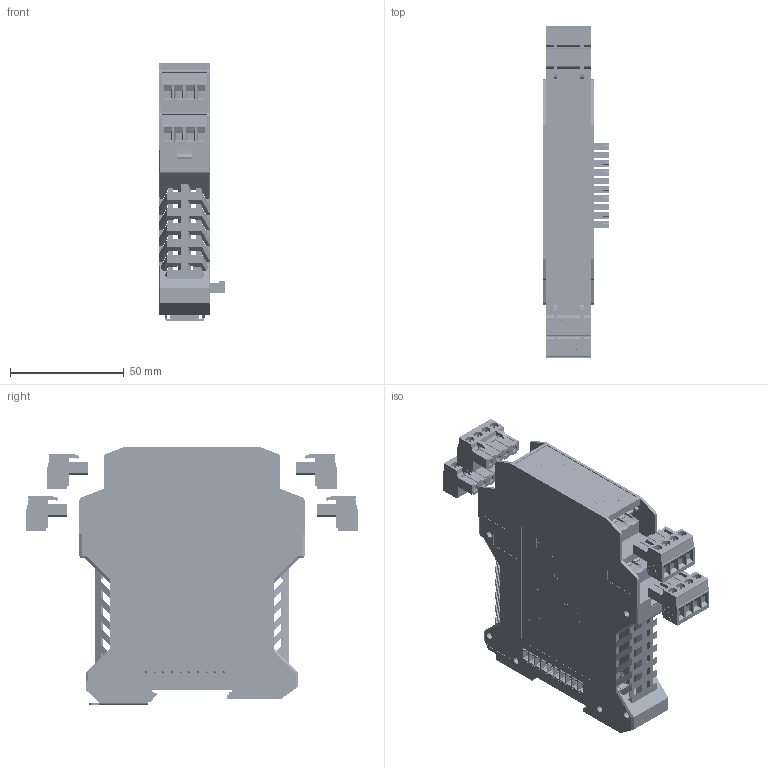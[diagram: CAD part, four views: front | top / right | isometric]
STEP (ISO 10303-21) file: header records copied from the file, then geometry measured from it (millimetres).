
FILE_DESCRIPTION(('STEP AP203'), '1');
FILE_NAME('鍛鍧 BOP-6_', '', ('UNSPECIFIED'), ('UNSPECIFIED'), 'ASCON STEP Converter 1.3', 'ASCON Math Kernel', '');
FILE_SCHEMA(('CONFIG_CONTROL_DESIGN'));
Length unit declared in the file: millimetre
Products named in the file (17): ME_22.5_UTR_H_BUS_10_H.Select__00496319; ME_Verriegelungshaken_H.Select__00446697; ME_22.5_UTL_H_BUS_10_H.Select__00496310; ME_BUS_22.5_MC_10-ST_H.Select__00493208; ME_BUS_FE-CONTACT_H.Select__00437355; Fussriegel_17.5_L30_H.Select__00315466; ME_22_5_OT-MSTBO_H.Select__00273265; MSTBO_2_5_4-G1L_H.Select__00364411; MSTBO_2_5_4-G1R_H.Select__00364505; MSTBT_2.5-4-ST
Assembly tree (22 placements, depth 5):
  (unnamed)
    (unnamed)
      (unnamed)
        (unnamed)
          ME_22.5_UTR_H_BUS_10_H.Select__00496319
          ME_Verriegelungshaken_H.Select__00446697  x2
          ME_22.5_UTL_H_BUS_10_H.Select__00496310
          ME_BUS_22.5_MC_10-ST_H.Select__00493208
          ME_BUS_FE-CONTACT_H.Select__00437355
          Fussriegel_17.5_L30_H.Select__00315466
      (unnamed)
        (unnamed)
          ME_22_5_OT-MSTBO_H.Select__00273265
          MSTBO_2_5_4-G1L_H.Select__00364411  x2
          MSTBO_2_5_4-G1R_H.Select__00364505  x2
    MSTBT_2.5-4-ST  x4
      MSTBT_2.5-4-ST
Bounding box: 29.1 x 145.9 x 113.6 mm (x, y, z)
Volume: 76886.2 mm3; surface area: 99700.1 mm2
Topology: 19 solids, 21 shells, 17819 faces, 50125 edges, 33259 vertices
Faces by surface type: plane 10636, cylinder 6801, extrusion 352, cone 30
Full cylindrical faces by diameter (mm): 0.813 x3, 0.853 x3, 1.353 x16, 1.4 x32, 1.6 x20, 2 x6, 2.1 x3, 2.8 x32, 3 x12, 3.783 x16, 4 x16
Entity records: 616931 total; most frequent: CARTESIAN_POINT 90884, ORIENTED_EDGE 85426, DIRECTION 85002, EDGE_CURVE 42713, VECTOR 29498, LINE 29257, VERTEX_POINT 28437, AXIS2_PLACEMENT_3D 27752
